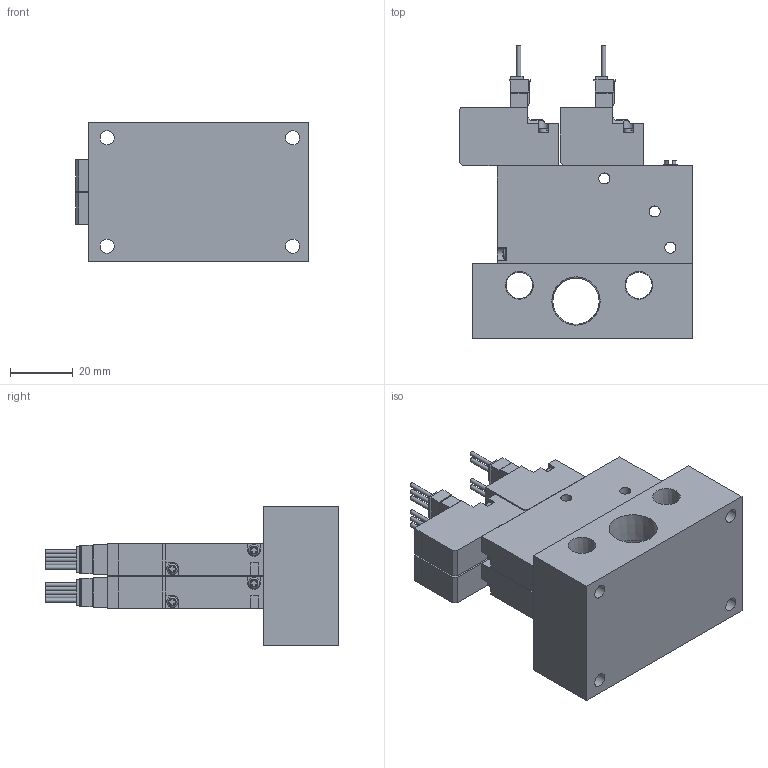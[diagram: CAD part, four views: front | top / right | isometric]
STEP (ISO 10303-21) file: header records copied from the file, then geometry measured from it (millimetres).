
FILE_DESCRIPTION(('STEP AP203'),'1');
FILE_NAME('BMPV42MZZ5W202.stp','2025-04-30T01:22:11',(' '),(' '),'Spatial InterOp 3D',' ',' ');
FILE_SCHEMA(('CONFIG_CONTROL_DESIGN'));
Length unit declared in the file: millimetre
Products named in the file (5): BMPV42MZZ5W202; VACUUM VALVE FUNCTION MPV42-W; VACUUM VALVE FUNCTION MPV42-A; UNIT-MPV42; MPV42-M20R-1
Assembly tree (7 placements, depth 2):
  BMPV42MZZ5W202
    VACUUM VALVE FUNCTION MPV42-W  x2
    VACUUM VALVE FUNCTION MPV42-A  x2
    UNIT-MPV42  x2
    MPV42-M20R-1
Bounding box: 74 x 93.45 x 44.5 mm (x, y, z)
Volume: 118891.5 mm3; surface area: 39055.7 mm2
Topology: 7 solids, 7 shells, 547 faces, 1471 edges, 980 vertices
Faces by surface type: plane 438, cylinder 89, cone 12, sphere 4, torus 4
Full cylindrical faces by diameter (mm): 1.4 x10, 1.8 x2, 2.2 x4, 3 x8, 3.5 x14, 4.134 x2, 4.5 x4, 5 x2, 8.441 x2, 14.744 x1
Entity records: 8839 total; most frequent: CARTESIAN_POINT 1593, DIRECTION 1409, ORIENTED_EDGE 1402, EDGE_CURVE 701, LINE 559, VECTOR 559, VERTEX_POINT 489, AXIS2_PLACEMENT_3D 425
